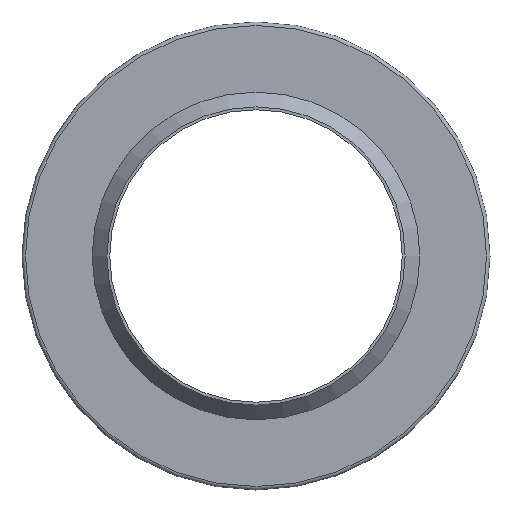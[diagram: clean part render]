
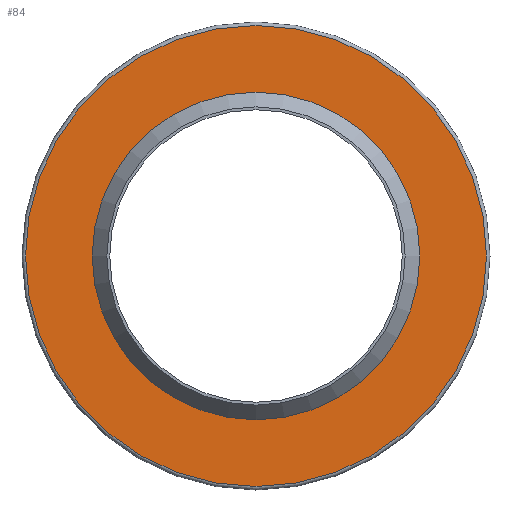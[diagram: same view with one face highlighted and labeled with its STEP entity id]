
A CAD part, left-side view. The second image highlights one B-rep face of the part: STEP entity #84.
In plain terms, the highlighted planar face has unit normal (-1, 0, 0).
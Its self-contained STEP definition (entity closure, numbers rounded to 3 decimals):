
#84=ADVANCED_FACE('',(#117,#118),#119,.T.);
#117=FACE_OUTER_BOUND('',#159,.T.);
#118=FACE_BOUND('',#160,.T.);
#119=PLANE('',#161);
#159=EDGE_LOOP('',(#219));
#160=EDGE_LOOP('',(#220));
#161=AXIS2_PLACEMENT_3D('',#221,#222,#223);
#219=ORIENTED_EDGE('',*,*,#254,.T.);
#220=ORIENTED_EDGE('',*,*,#253,.F.);
#221=CARTESIAN_POINT('',(-4.,14.,0.0));
#222=DIRECTION('',(-1.0,0.0,0.0));
#223=DIRECTION('',(0.0,0.0,1.0));
#253=EDGE_CURVE('',#276,#276,#277,.T.);
#254=EDGE_CURVE('',#278,#278,#279,.T.);
#276=VERTEX_POINT('',#304);
#277=CIRCLE('',#305,14.);
#278=VERTEX_POINT('',#306);
#279=CIRCLE('',#307,19.7);
#304=CARTESIAN_POINT('',(-4.,0.0,14.));
#305=AXIS2_PLACEMENT_3D('',#341,#342,#343);
#306=CARTESIAN_POINT('',(-4.,0.0,19.7));
#307=AXIS2_PLACEMENT_3D('',#344,#345,#346);
#341=CARTESIAN_POINT('',(-4.,0.0,0.0));
#342=DIRECTION('',(-1.0,0.0,0.0));
#343=DIRECTION('',(0.0,0.0,1.0));
#344=CARTESIAN_POINT('',(-4.,0.0,0.0));
#345=DIRECTION('',(-1.0,0.0,0.0));
#346=DIRECTION('',(0.0,0.0,1.0));
